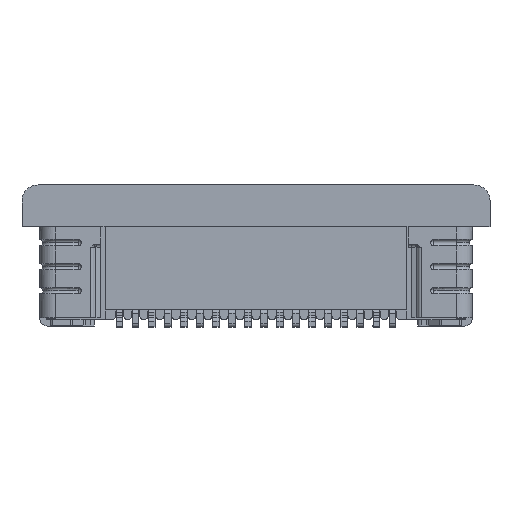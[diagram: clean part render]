
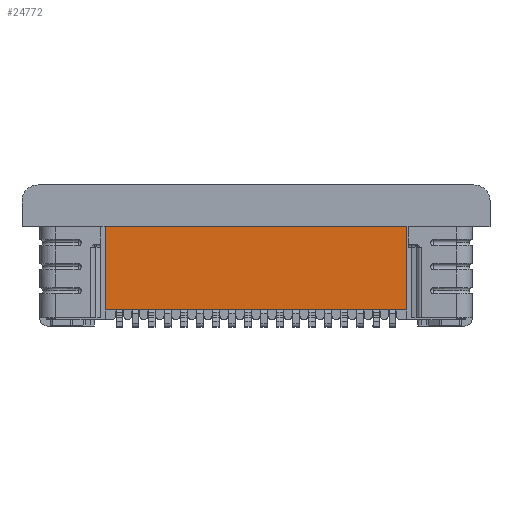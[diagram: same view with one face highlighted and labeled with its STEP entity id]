
A CAD part, top view. The second image highlights one B-rep face of the part: STEP entity #24772.
In plain terms, the highlighted planar face has unit normal (0, 0, 1).
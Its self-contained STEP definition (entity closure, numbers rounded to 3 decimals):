
#2158 = CARTESIAN_POINT ( 'NONE',  ( 9.4, -2.6, 2. ) ) ;
#3277 = FACE_OUTER_BOUND ( 'NONE', #34596, .T. ) ;
#5235 = VECTOR ( 'NONE', #29434, 1000. ) ;
#7231 = AXIS2_PLACEMENT_3D ( 'NONE', #15450, #23715, #38352 ) ;
#9059 = VECTOR ( 'NONE', #36495, 1000. ) ;
#10406 = EDGE_CURVE ( 'NONE', #28161, #41067, #25063, .T. ) ;
#15450 = CARTESIAN_POINT ( 'NONE',  ( 0.521, 0.084, 2. ) ) ;
#15798 = LINE ( 'NONE', #23596, #38593 ) ;
#17052 = EDGE_CURVE ( 'NONE', #20568, #44989, #15798, .T. ) ;
#17280 = EDGE_CURVE ( 'NONE', #44989, #41067, #36256, .T. ) ;
#20568 = VERTEX_POINT ( 'NONE', #26678 ) ;
#21275 = ORIENTED_EDGE ( 'NONE', *, *, #17280, .T. ) ;
#22109 = CARTESIAN_POINT ( 'NONE',  ( 9.4, -1.3, 2. ) ) ;
#22996 = DIRECTION ( 'NONE',  ( -1., 0., 0. ) ) ;
#23179 = VECTOR ( 'NONE', #22996, 1000. ) ;
#23596 = CARTESIAN_POINT ( 'NONE',  ( 0., -1.3, 2. ) ) ;
#23715 = DIRECTION ( 'NONE',  ( 0., 0., 1. ) ) ;
#24772 = ADVANCED_FACE ( 'NONE', ( #3277 ), #26891, .T. ) ;
#25063 = LINE ( 'NONE', #22109, #5235 ) ;
#26678 = CARTESIAN_POINT ( 'NONE',  ( 0., 0., 2. ) ) ;
#26891 = PLANE ( 'NONE',  #7231 ) ;
#28161 = VERTEX_POINT ( 'NONE', #46780 ) ;
#29434 = DIRECTION ( 'NONE',  ( 0., -1., 0. ) ) ;
#31238 = ORIENTED_EDGE ( 'NONE', *, *, #46405, .T. ) ;
#32467 = CARTESIAN_POINT ( 'NONE',  ( 0., -2.6, 2. ) ) ;
#33715 = CARTESIAN_POINT ( 'NONE',  ( 10.2, 0., 2. ) ) ;
#34596 = EDGE_LOOP ( 'NONE', ( #31238, #45985, #21275, #39826 ) ) ;
#36256 = LINE ( 'NONE', #40622, #9059 ) ;
#36495 = DIRECTION ( 'NONE',  ( 1., 0., 0. ) ) ;
#38352 = DIRECTION ( 'NONE',  ( 0., -1., 0. ) ) ;
#38593 = VECTOR ( 'NONE', #45072, 1000. ) ;
#39826 = ORIENTED_EDGE ( 'NONE', *, *, #10406, .F. ) ;
#40622 = CARTESIAN_POINT ( 'NONE',  ( 0.521, -2.6, 2. ) ) ;
#41067 = VERTEX_POINT ( 'NONE', #2158 ) ;
#44989 = VERTEX_POINT ( 'NONE', #32467 ) ;
#45072 = DIRECTION ( 'NONE',  ( 0., -1., 0. ) ) ;
#45181 = LINE ( 'NONE', #33715, #23179 ) ;
#45985 = ORIENTED_EDGE ( 'NONE', *, *, #17052, .T. ) ;
#46405 = EDGE_CURVE ( 'NONE', #28161, #20568, #45181, .T. ) ;
#46780 = CARTESIAN_POINT ( 'NONE',  ( 9.4, 0., 2. ) ) ;
